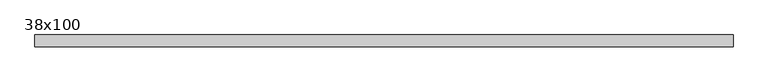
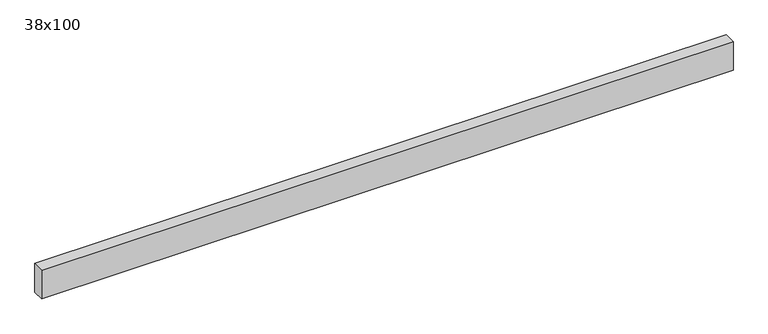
"""IFC4 building model written with IfcOpenShell, lengths in millimetres: beam geometry, Poutre - Bois de construction de dimensions courantes : 38x100."""

from ifc_helpers import new_model, si_unit, frame, origin, place, context, project, spatial, polyline, outline, extrude, source, transform, mapped, element, save


def beam_38x100_18b95425(model_context):
    return source(origin(), model_context, "Body", "SweptSolid", [
        extrude(outline(polyline([(1119.0, 19.05), (1119.0, -19.05), (-1148.0, -19.05), (-1148.0, 19.05), (1119.0, 19.05)])), frame((0.0, 0.0, -50.0), z_axis=(0.0, 0.0, 1.0), x_axis=(1.0, 0.0, 0.0)), (0.0, 0.0, 1.0), 100.0),
    ])


if __name__ == "__main__":
    model = new_model("IFC4")
    model_context = context("Model", 3, world=origin())
    ifc_project = project(units=[si_unit("LENGTHUNIT", "METRE", prefix="MILLI")], contexts=[model_context])
    site = spatial("IfcSite", under=ifc_project)
    building = spatial("IfcBuilding", under=site)
    placement = place(None, origin())
    beam_38x100_shape = beam_38x100_18b95425(model_context)
    element("IfcBeam", 1, ObjectType="Poutre - Bois de construction de dimensions courantes : 38x100", at=placement, inside=building, context=model_context, shape_type="MappedRepresentation", body=[
        mapped(beam_38x100_shape, transform((0.0, 0.0, 0.0), x_axis=(1.0, 0.0, 0.0), y_axis=(0.0, 1.0, 0.0), z_axis=(0.0, 0.0, 1.0))),
    ])
    save(model, "model.ifc")
